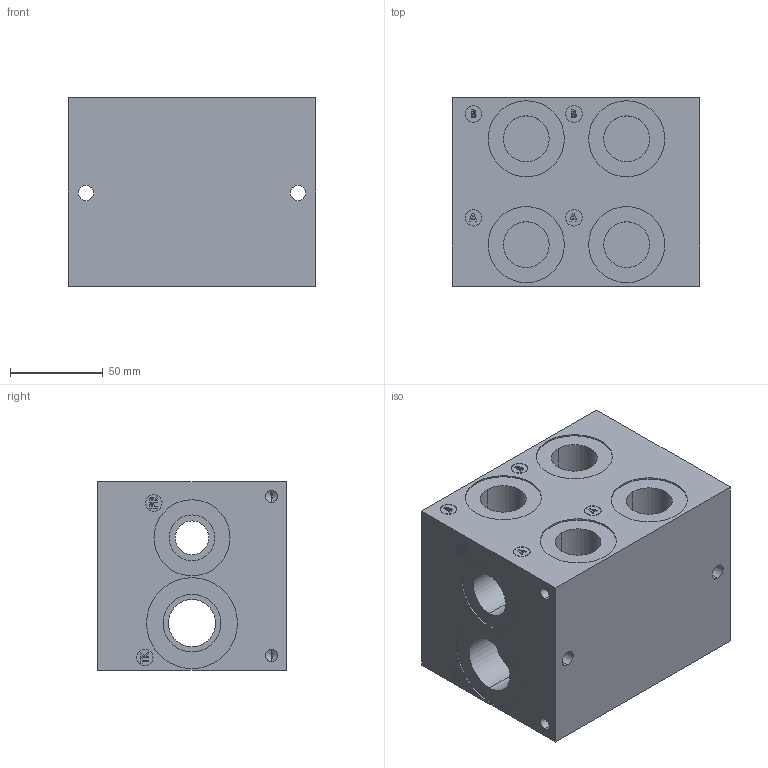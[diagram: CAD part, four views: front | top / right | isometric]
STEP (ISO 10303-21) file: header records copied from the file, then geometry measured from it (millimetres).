
FILE_DESCRIPTION (( 'STEP AP203' ), '1' );
FILE_NAME ('BMR-AHP03S2-02-1_Z.STEP', '2015-01-06T15:22:17', ( '' ), ( '' ), 'SwSTEP 2.0', 'SolidWorks 2014', '' );
FILE_SCHEMA (( 'CONFIG_CONTROL_DESIGN' ));
Length unit declared in the file: inch
Products named in the file (1): BMR-AHP03S2-02-1_Z
Bounding box: 133.35 x 101.6 x 101.6 mm (x, y, z)
Volume: 1192337.5 mm3; surface area: 109203.2 mm2
Topology: 1 solids, 1 shells, 378 faces, 916 edges, 574 vertices
Faces by surface type: plane 176, cylinder 120, cone 44, bspline 38
Entity records: 12995 total; most frequent: CARTESIAN_POINT 4311, ORIENTED_EDGE 1744, DIRECTION 1718, EDGE_CURVE 872, AXIS2_PLACEMENT_3D 581, VERTEX_POINT 574, VECTOR 556, LINE 556
